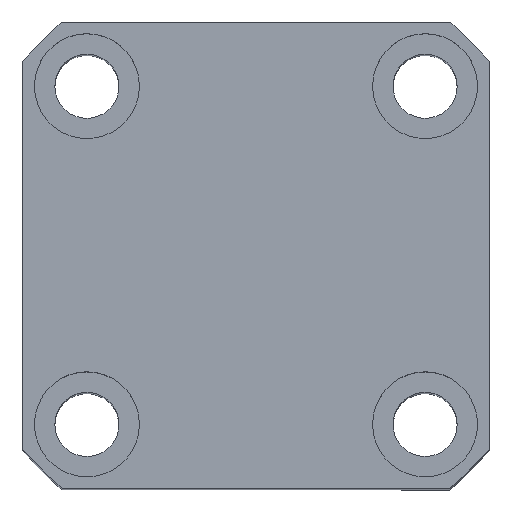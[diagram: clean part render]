
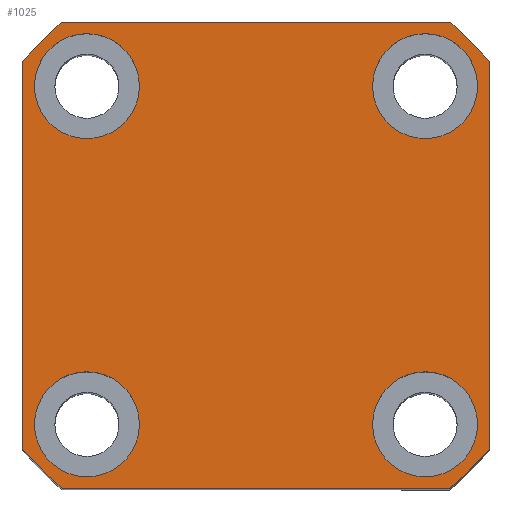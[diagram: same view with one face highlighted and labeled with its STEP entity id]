
A CAD part, top view. The second image highlights one B-rep face of the part: STEP entity #1025.
In plain terms, the highlighted planar face has unit normal (0, 0, 1).
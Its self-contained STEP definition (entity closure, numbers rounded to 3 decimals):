
#8 = VERTEX_POINT ( 'NONE', #6737 ) ;
#73 = VERTEX_POINT ( 'NONE', #4005 ) ;
#223 = VERTEX_POINT ( 'NONE', #8750 ) ;
#254 = VECTOR ( 'NONE', #3439, 1000. ) ;
#276 = CIRCLE ( 'NONE', #14690, 52. ) ;
#457 = CARTESIAN_POINT ( 'NONE',  ( -40., 33.226, 77.5 ) ) ;
#549 = AXIS2_PLACEMENT_3D ( 'NONE', #11621, #553, #7458 ) ;
#553 = DIRECTION ( 'NONE',  ( 0., 0., 1. ) ) ;
#609 = CARTESIAN_POINT ( 'NONE',  ( 0., 0., 77.5 ) ) ;
#614 = DIRECTION ( 'NONE',  ( 1., 0., 0. ) ) ;
#795 = CARTESIAN_POINT ( 'NONE',  ( 29., 29., 77.5 ) ) ;
#972 = VERTEX_POINT ( 'NONE', #2804 ) ;
#980 = EDGE_CURVE ( 'NONE', #13291, #13537, #5587, .T. ) ;
#1025 = ADVANCED_FACE ( 'NONE', ( #8656, #15180, #3196, #9522, #9959 ), #10248, .T. ) ;
#1360 = VERTEX_POINT ( 'NONE', #14531 ) ;
#1488 = ORIENTED_EDGE ( 'NONE', *, *, #15134, .F. ) ;
#1610 = DIRECTION ( 'NONE',  ( 0., 0., 1. ) ) ;
#1661 = CIRCLE ( 'NONE', #2548, 9. ) ;
#1736 = CARTESIAN_POINT ( 'NONE',  ( -20., 29., 77.5 ) ) ;
#1941 = ORIENTED_EDGE ( 'NONE', *, *, #8262, .T. ) ;
#1955 = DIRECTION ( 'NONE',  ( 0., 0., 1. ) ) ;
#2228 = CARTESIAN_POINT ( 'NONE',  ( 29., -29., 77.5 ) ) ;
#2548 = AXIS2_PLACEMENT_3D ( 'NONE', #2228, #6506, #7748 ) ;
#2622 = CARTESIAN_POINT ( 'NONE',  ( -33.226, 40., 77.5 ) ) ;
#2633 = VECTOR ( 'NONE', #5146, 1000. ) ;
#2652 = CARTESIAN_POINT ( 'NONE',  ( 40., 33.226, 77.5 ) ) ;
#2756 = CARTESIAN_POINT ( 'NONE',  ( 33.226, 40., 77.5 ) ) ;
#2804 = CARTESIAN_POINT ( 'NONE',  ( 40., -33.226, 77.5 ) ) ;
#2818 = ORIENTED_EDGE ( 'NONE', *, *, #12471, .T. ) ;
#2822 = LINE ( 'NONE', #13112, #13519 ) ;
#2890 = CARTESIAN_POINT ( 'NONE',  ( 29., -29., 77.5 ) ) ;
#3152 = VERTEX_POINT ( 'NONE', #14359 ) ;
#3196 = FACE_BOUND ( 'NONE', #9024, .T. ) ;
#3296 = ORIENTED_EDGE ( 'NONE', *, *, #9318, .F. ) ;
#3439 = DIRECTION ( 'NONE',  ( 1., 0., 0. ) ) ;
#3475 = DIRECTION ( 'NONE',  ( 1., 0., 0. ) ) ;
#3511 = DIRECTION ( 'NONE',  ( 0., 0., 1. ) ) ;
#3702 = EDGE_CURVE ( 'NONE', #223, #17778, #6400, .T. ) ;
#3742 = AXIS2_PLACEMENT_3D ( 'NONE', #6659, #16503, #13784 ) ;
#3820 = ORIENTED_EDGE ( 'NONE', *, *, #3702, .F. ) ;
#4005 = CARTESIAN_POINT ( 'NONE',  ( -33.226, 40., 77.5 ) ) ;
#4378 = CARTESIAN_POINT ( 'NONE',  ( 0., 0., 77.5 ) ) ;
#4403 = VECTOR ( 'NONE', #9678, 1000. ) ;
#4487 = AXIS2_PLACEMENT_3D ( 'NONE', #12993, #1955, #7513 ) ;
#4738 = EDGE_CURVE ( 'NONE', #73, #14919, #276, .T. ) ;
#4836 = DIRECTION ( 'NONE',  ( 0., 0., 1. ) ) ;
#5019 = DIRECTION ( 'NONE',  ( 1., 0., 0. ) ) ;
#5039 = ORIENTED_EDGE ( 'NONE', *, *, #11655, .F. ) ;
#5146 = DIRECTION ( 'NONE',  ( -1., 0., 0. ) ) ;
#5205 = AXIS2_PLACEMENT_3D ( 'NONE', #4378, #9865, #14120 ) ;
#5438 = EDGE_CURVE ( 'NONE', #3152, #8244, #16848, .T. ) ;
#5444 = EDGE_CURVE ( 'NONE', #8244, #972, #11846, .T. ) ;
#5587 = CIRCLE ( 'NONE', #16510, 9. ) ;
#6029 = DIRECTION ( 'NONE',  ( 1., 0., 0. ) ) ;
#6109 = ORIENTED_EDGE ( 'NONE', *, *, #10362, .T. ) ;
#6197 = DIRECTION ( 'NONE',  ( 0., 0., 1. ) ) ;
#6306 = CARTESIAN_POINT ( 'NONE',  ( -40., -33.226, 77.5 ) ) ;
#6359 = DIRECTION ( 'NONE',  ( 0., 0., 1. ) ) ;
#6400 = CIRCLE ( 'NONE', #14802, 9. ) ;
#6506 = DIRECTION ( 'NONE',  ( 0., 0., 1. ) ) ;
#6600 = AXIS2_PLACEMENT_3D ( 'NONE', #13034, #6197, #3475 ) ;
#6659 = CARTESIAN_POINT ( 'NONE',  ( 29., 29., 77.5 ) ) ;
#6737 = CARTESIAN_POINT ( 'NONE',  ( 40., 33.226, 77.5 ) ) ;
#6845 = CARTESIAN_POINT ( 'NONE',  ( -29., 29., 77.5 ) ) ;
#6867 = ORIENTED_EDGE ( 'NONE', *, *, #980, .F. ) ;
#6910 = EDGE_LOOP ( 'NONE', ( #8670, #3296 ) ) ;
#7055 = EDGE_CURVE ( 'NONE', #12217, #9610, #1661, .T. ) ;
#7168 = CARTESIAN_POINT ( 'NONE',  ( -29., -29., 77.5 ) ) ;
#7331 = CIRCLE ( 'NONE', #3742, 9. ) ;
#7434 = EDGE_LOOP ( 'NONE', ( #6867, #17108 ) ) ;
#7458 = DIRECTION ( 'NONE',  ( 1., 0., 0. ) ) ;
#7513 = DIRECTION ( 'NONE',  ( 1., 0., 0. ) ) ;
#7748 = DIRECTION ( 'NONE',  ( 1., 0., 0. ) ) ;
#8244 = VERTEX_POINT ( 'NONE', #18016 ) ;
#8262 = EDGE_CURVE ( 'NONE', #972, #8, #11182, .T. ) ;
#8406 = DIRECTION ( 'NONE',  ( 1., 0., 0. ) ) ;
#8656 = FACE_BOUND ( 'NONE', #6910, .T. ) ;
#8670 = ORIENTED_EDGE ( 'NONE', *, *, #7055, .F. ) ;
#8750 = CARTESIAN_POINT ( 'NONE',  ( 38., 29., 77.5 ) ) ;
#8914 = DIRECTION ( 'NONE',  ( 0., -1., 0. ) ) ;
#8942 = ORIENTED_EDGE ( 'NONE', *, *, #4738, .T. ) ;
#9024 = EDGE_LOOP ( 'NONE', ( #1488, #5039 ) ) ;
#9184 = AXIS2_PLACEMENT_3D ( 'NONE', #2890, #1610, #11402 ) ;
#9231 = EDGE_CURVE ( 'NONE', #13537, #13291, #16143, .T. ) ;
#9318 = EDGE_CURVE ( 'NONE', #9610, #12217, #9837, .T. ) ;
#9522 = FACE_BOUND ( 'NONE', #11005, .T. ) ;
#9610 = VERTEX_POINT ( 'NONE', #13964 ) ;
#9662 = AXIS2_PLACEMENT_3D ( 'NONE', #609, #4836, #5019 ) ;
#9678 = DIRECTION ( 'NONE',  ( 0., 1., 0. ) ) ;
#9837 = CIRCLE ( 'NONE', #9184, 9. ) ;
#9865 = DIRECTION ( 'NONE',  ( 0., 0., 1. ) ) ;
#9959 = FACE_OUTER_BOUND ( 'NONE', #12414, .T. ) ;
#10080 = LINE ( 'NONE', #2622, #2633 ) ;
#10082 = CARTESIAN_POINT ( 'NONE',  ( -29., -29., 77.5 ) ) ;
#10248 = PLANE ( 'NONE',  #6600 ) ;
#10358 = ORIENTED_EDGE ( 'NONE', *, *, #11740, .T. ) ;
#10362 = EDGE_CURVE ( 'NONE', #13096, #73, #10080, .T. ) ;
#10593 = CARTESIAN_POINT ( 'NONE',  ( 38., -29., 77.5 ) ) ;
#11005 = EDGE_LOOP ( 'NONE', ( #3820, #15609 ) ) ;
#11182 = LINE ( 'NONE', #2652, #4403 ) ;
#11323 = CIRCLE ( 'NONE', #9662, 52. ) ;
#11402 = DIRECTION ( 'NONE',  ( 1., 0., 0. ) ) ;
#11621 = CARTESIAN_POINT ( 'NONE',  ( 0., 0., 77.5 ) ) ;
#11655 = EDGE_CURVE ( 'NONE', #1360, #12650, #13959, .T. ) ;
#11740 = EDGE_CURVE ( 'NONE', #14919, #12304, #2822, .T. ) ;
#11820 = CARTESIAN_POINT ( 'NONE',  ( 0., 0., 77.5 ) ) ;
#11846 = CIRCLE ( 'NONE', #549, 52. ) ;
#12217 = VERTEX_POINT ( 'NONE', #10593 ) ;
#12291 = ORIENTED_EDGE ( 'NONE', *, *, #5444, .T. ) ;
#12304 = VERTEX_POINT ( 'NONE', #6306 ) ;
#12414 = EDGE_LOOP ( 'NONE', ( #8942, #10358, #17727, #15634, #12291, #1941, #2818, #6109 ) ) ;
#12471 = EDGE_CURVE ( 'NONE', #8, #13096, #15032, .T. ) ;
#12650 = VERTEX_POINT ( 'NONE', #1736 ) ;
#12993 = CARTESIAN_POINT ( 'NONE',  ( -29., 29., 77.5 ) ) ;
#13034 = CARTESIAN_POINT ( 'NONE',  ( 0., 0., 77.5 ) ) ;
#13096 = VERTEX_POINT ( 'NONE', #2756 ) ;
#13112 = CARTESIAN_POINT ( 'NONE',  ( -40., 33.226, 77.5 ) ) ;
#13152 = AXIS2_PLACEMENT_3D ( 'NONE', #6845, #16575, #15065 ) ;
#13291 = VERTEX_POINT ( 'NONE', #15309 ) ;
#13519 = VECTOR ( 'NONE', #8914, 1000. ) ;
#13537 = VERTEX_POINT ( 'NONE', #17906 ) ;
#13784 = DIRECTION ( 'NONE',  ( 1., 0., 0. ) ) ;
#13959 = CIRCLE ( 'NONE', #4487, 9. ) ;
#13964 = CARTESIAN_POINT ( 'NONE',  ( 20., -29., 77.5 ) ) ;
#13996 = DIRECTION ( 'NONE',  ( 0., 0., 1. ) ) ;
#14120 = DIRECTION ( 'NONE',  ( 1., 0., 0. ) ) ;
#14131 = CIRCLE ( 'NONE', #13152, 9. ) ;
#14290 = CARTESIAN_POINT ( 'NONE',  ( 20., 29., 77.5 ) ) ;
#14359 = CARTESIAN_POINT ( 'NONE',  ( -33.226, -40., 77.5 ) ) ;
#14531 = CARTESIAN_POINT ( 'NONE',  ( -38., 29., 77.5 ) ) ;
#14575 = CARTESIAN_POINT ( 'NONE',  ( -33.226, -40., 77.5 ) ) ;
#14690 = AXIS2_PLACEMENT_3D ( 'NONE', #11820, #6359, #16196 ) ;
#14802 = AXIS2_PLACEMENT_3D ( 'NONE', #795, #3511, #614 ) ;
#14919 = VERTEX_POINT ( 'NONE', #457 ) ;
#15003 = EDGE_CURVE ( 'NONE', #12304, #3152, #11323, .T. ) ;
#15032 = CIRCLE ( 'NONE', #5205, 52. ) ;
#15065 = DIRECTION ( 'NONE',  ( 1., 0., 0. ) ) ;
#15134 = EDGE_CURVE ( 'NONE', #12650, #1360, #14131, .T. ) ;
#15180 = FACE_BOUND ( 'NONE', #7434, .T. ) ;
#15309 = CARTESIAN_POINT ( 'NONE',  ( -20., -29., 77.5 ) ) ;
#15598 = DIRECTION ( 'NONE',  ( 0., 0., 1. ) ) ;
#15609 = ORIENTED_EDGE ( 'NONE', *, *, #17086, .F. ) ;
#15634 = ORIENTED_EDGE ( 'NONE', *, *, #5438, .T. ) ;
#15796 = AXIS2_PLACEMENT_3D ( 'NONE', #7168, #13996, #8406 ) ;
#16143 = CIRCLE ( 'NONE', #15796, 9. ) ;
#16196 = DIRECTION ( 'NONE',  ( 1., 0., 0. ) ) ;
#16503 = DIRECTION ( 'NONE',  ( 0., 0., 1. ) ) ;
#16510 = AXIS2_PLACEMENT_3D ( 'NONE', #10082, #15598, #6029 ) ;
#16575 = DIRECTION ( 'NONE',  ( 0., 0., 1. ) ) ;
#16848 = LINE ( 'NONE', #14575, #254 ) ;
#17086 = EDGE_CURVE ( 'NONE', #17778, #223, #7331, .T. ) ;
#17108 = ORIENTED_EDGE ( 'NONE', *, *, #9231, .F. ) ;
#17727 = ORIENTED_EDGE ( 'NONE', *, *, #15003, .T. ) ;
#17778 = VERTEX_POINT ( 'NONE', #14290 ) ;
#17906 = CARTESIAN_POINT ( 'NONE',  ( -38., -29., 77.5 ) ) ;
#18016 = CARTESIAN_POINT ( 'NONE',  ( 33.226, -40., 77.5 ) ) ;
